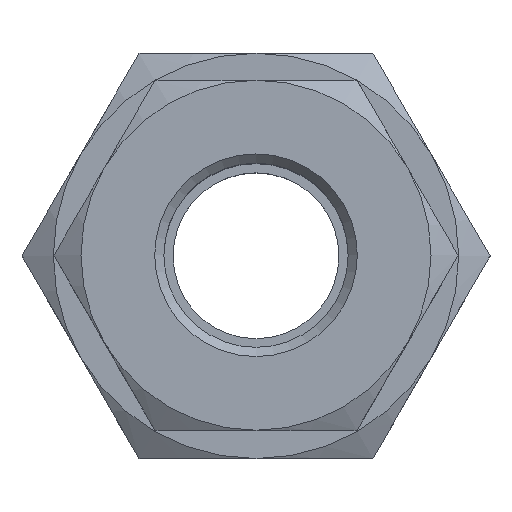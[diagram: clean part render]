
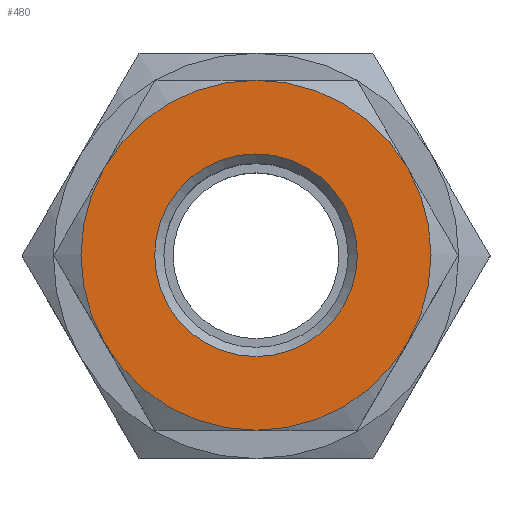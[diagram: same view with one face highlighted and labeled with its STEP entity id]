
A CAD part, top view. The second image highlights one B-rep face of the part: STEP entity #480.
In plain terms, the highlighted planar face has unit normal (0, 0, 1).
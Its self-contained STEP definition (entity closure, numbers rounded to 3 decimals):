
#480=ADVANCED_FACE('', (#490,#500), #510, .T.);
#3700=AXIS2_PLACEMENT_3D('Ax2Pl3d', #3710, #3720, #3730);
#3740=AXIS2_PLACEMENT_3D('Ax2Pl3d', #3750, #3760, #3770);
#3780=AXIS2_PLACEMENT_3D('Ax2Pl3d', #3790, #3800, #3810);
#3820=AXIS2_PLACEMENT_3D('Ax2Pl3d', #3830, #3840, #3850);
#3860=AXIS2_PLACEMENT_3D('Ax2Pl3d', #3870, #3880, #3890);
#3900=AXIS2_PLACEMENT_3D('Ax2Pl3d', #3910, #3920, #3930);
#3940=AXIS2_PLACEMENT_3D('Ax2Pl3d', #3950, #3960, #3970);
#3980=AXIS2_PLACEMENT_3D('Ax2Pl3d', #3990, #4000, #4010);
#11020=CARTESIAN_POINT('', (12.487,21.033,48.324));
#11090=CARTESIAN_POINT('', (20.714,25.783,48.324));
#11140=CARTESIAN_POINT('', (28.941,21.033,48.324));
#11210=CARTESIAN_POINT('', (28.941,11.533,48.324));
#11250=CARTESIAN_POINT('', (20.714,6.783,48.324));
#11290=CARTESIAN_POINT('', (12.487,11.533,48.324));
#3710=CARTESIAN_POINT('HicPkt', (30.214,16.283,
48.324));
#3750=CARTESIAN_POINT('HicPkt', (20.714,16.283,
48.324));
#3790=CARTESIAN_POINT('HicPkt', (20.714,16.283,
48.324));
#3830=CARTESIAN_POINT('HicPkt', (20.714,16.283,
48.324));
#3870=CARTESIAN_POINT('HicPkt', (20.714,16.283,
48.324));
#3910=CARTESIAN_POINT('HicPkt', (20.714,16.283,
48.324));
#3950=CARTESIAN_POINT('HicPkt', (20.714,16.283,
48.324));
#3990=CARTESIAN_POINT('HicPkt', (20.714,16.283,
48.324));
#11330=CARTESIAN_POINT('', (20.714,21.783,48.324));
#12070=CIRCLE('Circle', #3740, 9.5);
#12080=CIRCLE('Circle', #3780, 9.5);
#12090=CIRCLE('Circle', #3820, 9.5);
#12100=CIRCLE('Circle', #3860, 9.5);
#12110=CIRCLE('Circle', #3900, 9.5);
#12120=CIRCLE('Circle', #3940, 9.5);
#12130=CIRCLE('Circle', #3980, 5.5);
#3720=DIRECTION('Axis', (0.,0.,1.));
#3730=DIRECTION('RefDirection', (1.,0.,-0.));
#3760=DIRECTION('Axis', (0.,0.,1.));
#3770=DIRECTION('RefDirection', (1.,0.,-0.));
#3800=DIRECTION('Axis', (0.,0.,1.));
#3810=DIRECTION('RefDirection', (1.,0.,-0.));
#3840=DIRECTION('Axis', (0.,0.,1.));
#3850=DIRECTION('RefDirection', (1.,0.,-0.));
#3880=DIRECTION('Axis', (0.,0.,1.));
#3890=DIRECTION('RefDirection', (1.,0.,-0.));
#3920=DIRECTION('Axis', (0.,0.,1.));
#3930=DIRECTION('RefDirection', (1.,0.,-0.));
#3960=DIRECTION('Axis', (0.,0.,-1.));
#3970=DIRECTION('RefDirection', (-1.,-0.,0.));
#4000=DIRECTION('Axis', (0.,0.,-1.));
#4010=DIRECTION('RefDirection', (-1.,-0.,0.));
#17400=EDGE_CURVE('', #16950, #16850, #12070, .T.);
#17410=EDGE_CURVE('', #16850, #16720, #12080, .T.);
#17420=EDGE_CURVE('', #16720, #17250, #12090, .T.);
#17430=EDGE_CURVE('', #17250, #17170, #12100, .T.);
#17440=EDGE_CURVE('', #17170, #17090, #12110, .T.);
#17450=EDGE_CURVE('', #16950, #17090, #12120, .T.);
#17460=EDGE_CURVE('', #17470, #17470, #12130, .T.);
#19450=EDGE_LOOP('Edge_loop', (#19460,#19470,#19480,#19490,#19500,
#19510));
#19520=EDGE_LOOP('Edge_loop', (#19530));
#500=FACE_BOUND('', #19520, .T.);
#490=FACE_OUTER_BOUND('Face_outer_bound', #19450, .T.);
#19460=ORIENTED_EDGE('', *, *, #17400, .T.);
#19470=ORIENTED_EDGE('', *, *, #17410, .T.);
#19480=ORIENTED_EDGE('', *, *, #17420, .T.);
#19490=ORIENTED_EDGE('', *, *, #17430, .T.);
#19500=ORIENTED_EDGE('', *, *, #17440, .T.);
#19510=ORIENTED_EDGE('', *, *, #17450, .F.);
#19530=ORIENTED_EDGE('', *, *, #17460, .T.);
#510=PLANE('Plane', #3700);
#16720=VERTEX_POINT('', #11020);
#16850=VERTEX_POINT('', #11090);
#16950=VERTEX_POINT('', #11140);
#17090=VERTEX_POINT('', #11210);
#17170=VERTEX_POINT('', #11250);
#17250=VERTEX_POINT('', #11290);
#17470=VERTEX_POINT('', #11330);
